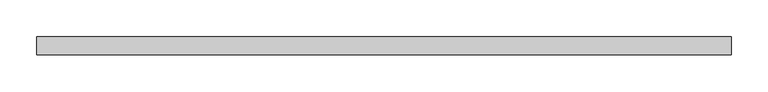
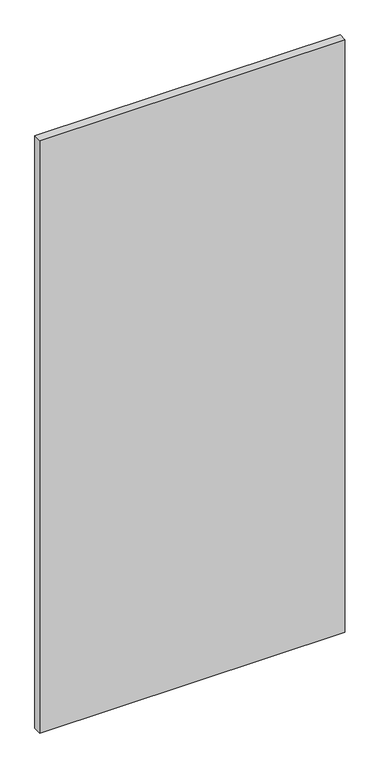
"""IFC4 building model written with IfcOpenShell, lengths in millimetres: plate geometry, Системная панель : С остеклением."""

from ifc_helpers import new_model, si_unit, origin, origin_with_axes, place, context, project, spatial, polyline, outline, extrude, source, transform, mapped, element, save


def plate_08de6f5f(model_context):
    return source(origin(), model_context, "Body", "SweptSolid", [
        extrude(outline(polyline([(475.0, 24.5), (-475.0, 24.5), (-475.0, 49.5), (475.0, 49.5), (475.0, 24.5)])), origin_with_axes(), (0.0, 0.0, 1.0), 1950.0),
    ])


if __name__ == "__main__":
    model = new_model("IFC4")
    model_context = context("Model", 3, world=origin())
    ifc_project = project(units=[si_unit("LENGTHUNIT", "METRE", prefix="MILLI")], contexts=[model_context])
    site = spatial("IfcSite", under=ifc_project)
    building = spatial("IfcBuilding", under=site)
    placement = place(None, origin())
    plate_shape = plate_08de6f5f(model_context)
    element("IfcPlate", 1, ObjectType="Системная панель : С остеклением", at=placement, inside=building, context=model_context, shape_type="MappedRepresentation", body=[
        mapped(plate_shape, transform((0.0, 0.0, 0.0), x_axis=(1.0, 0.0, 0.0), y_axis=(0.0, 1.0, 0.0), z_axis=(0.0, 0.0, 1.0))),
    ])
    save(model, "model.ifc")
